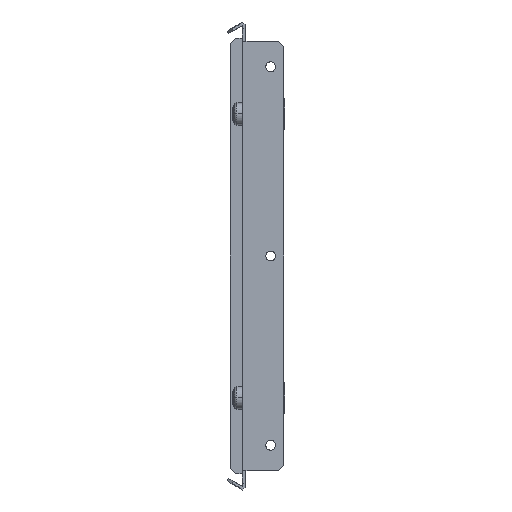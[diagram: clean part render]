
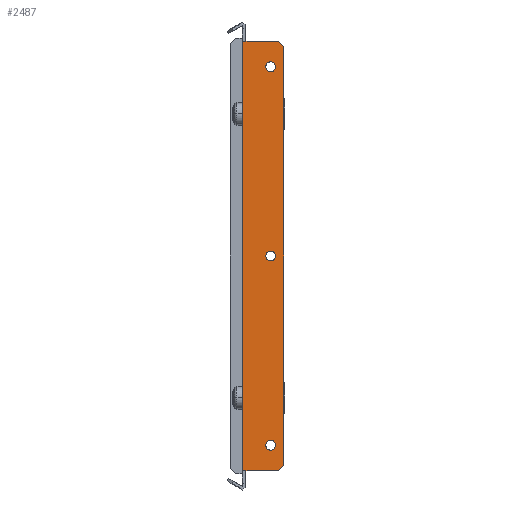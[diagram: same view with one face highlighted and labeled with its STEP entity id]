
A CAD part, front view. The second image highlights one B-rep face of the part: STEP entity #2487.
In plain terms, the highlighted planar face has unit normal (0, -1, 0).
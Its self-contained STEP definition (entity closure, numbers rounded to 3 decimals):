
#63 = AXIS2_PLACEMENT_3D ( 'NONE', #7304, #8786, #4920 ) ;
#127 = ORIENTED_EDGE ( 'NONE', *, *, #3748, .F. ) ;
#165 = CIRCLE ( 'NONE', #4715, 2.6 ) ;
#232 = CARTESIAN_POINT ( 'NONE',  ( 0., -2.5, 113.5 ) ) ;
#239 = CARTESIAN_POINT ( 'NONE',  ( 9.4, -2.5, 100. ) ) ;
#259 = EDGE_LOOP ( 'NONE', ( #1169, #1421, #3706, #3395, #6080, #3270, #8402, #5838 ) ) ;
#391 = CARTESIAN_POINT ( 'NONE',  ( 12., -2.5, 0. ) ) ;
#472 = VECTOR ( 'NONE', #1034, 1000. ) ;
#547 = VECTOR ( 'NONE', #6517, 1000. ) ;
#613 = CIRCLE ( 'NONE', #6118, 2.6 ) ;
#844 = ORIENTED_EDGE ( 'NONE', *, *, #4361, .F. ) ;
#881 = EDGE_CURVE ( 'NONE', #3249, #8608, #3087, .T. ) ;
#984 = LINE ( 'NONE', #8403, #5741 ) ;
#1034 = DIRECTION ( 'NONE',  ( -0.707, 0., 0.707 ) ) ;
#1065 = VERTEX_POINT ( 'NONE', #4264 ) ;
#1127 = CARTESIAN_POINT ( 'NONE',  ( -3., -2.5, 0. ) ) ;
#1169 = ORIENTED_EDGE ( 'NONE', *, *, #7518, .T. ) ;
#1185 = DIRECTION ( 'NONE',  ( 1., 0., 0. ) ) ;
#1421 = ORIENTED_EDGE ( 'NONE', *, *, #4841, .T. ) ;
#1463 = VERTEX_POINT ( 'NONE', #4795 ) ;
#1485 = VERTEX_POINT ( 'NONE', #5570 ) ;
#1505 = VECTOR ( 'NONE', #8431, 1000. ) ;
#1542 = DIRECTION ( 'NONE',  ( -1., 0., 0. ) ) ;
#1548 = ORIENTED_EDGE ( 'NONE', *, *, #5553, .F. ) ;
#1742 = DIRECTION ( 'NONE',  ( 0., -1., 0. ) ) ;
#1746 = VERTEX_POINT ( 'NONE', #2857 ) ;
#1891 = EDGE_LOOP ( 'NONE', ( #7470, #1548 ) ) ;
#1956 = LINE ( 'NONE', #9412, #547 ) ;
#1977 = EDGE_CURVE ( 'NONE', #8608, #1989, #8489, .T. ) ;
#1989 = VERTEX_POINT ( 'NONE', #7887 ) ;
#2066 = LINE ( 'NONE', #1127, #4926 ) ;
#2147 = VECTOR ( 'NONE', #5594, 1000. ) ;
#2226 = DIRECTION ( 'NONE',  ( 0., -1., 0. ) ) ;
#2279 = VERTEX_POINT ( 'NONE', #5222 ) ;
#2384 = CARTESIAN_POINT ( 'NONE',  ( -3., -2.5, -113.5 ) ) ;
#2464 = VERTEX_POINT ( 'NONE', #7093 ) ;
#2487 = ADVANCED_FACE ( 'NONE', ( #6180, #3365, #9213, #6360 ), #9351, .F. ) ;
#2552 = CARTESIAN_POINT ( 'NONE',  ( 16., -2.5, 113.5 ) ) ;
#2723 = CIRCLE ( 'NONE', #63, 2.6 ) ;
#2737 = VERTEX_POINT ( 'NONE', #9538 ) ;
#2739 = CIRCLE ( 'NONE', #6191, 2.6 ) ;
#2750 = CARTESIAN_POINT ( 'NONE',  ( 9.4, -2.5, -100. ) ) ;
#2762 = LINE ( 'NONE', #6536, #2813 ) ;
#2813 = VECTOR ( 'NONE', #1185, 1000. ) ;
#2852 = EDGE_CURVE ( 'NONE', #2279, #2870, #5241, .T. ) ;
#2857 = CARTESIAN_POINT ( 'NONE',  ( 14.6, -2.5, -100. ) ) ;
#2870 = VERTEX_POINT ( 'NONE', #2384 ) ;
#2973 = EDGE_CURVE ( 'NONE', #2464, #3249, #6377, .T. ) ;
#3087 = LINE ( 'NONE', #232, #1505 ) ;
#3173 = DIRECTION ( 'NONE',  ( -1., 0., 0. ) ) ;
#3245 = DIRECTION ( 'NONE',  ( 0., -1., 0. ) ) ;
#3249 = VERTEX_POINT ( 'NONE', #6725 ) ;
#3270 = ORIENTED_EDGE ( 'NONE', *, *, #1977, .T. ) ;
#3365 = FACE_BOUND ( 'NONE', #7315, .T. ) ;
#3389 = DIRECTION ( 'NONE',  ( -1., 0., 0. ) ) ;
#3395 = ORIENTED_EDGE ( 'NONE', *, *, #2973, .T. ) ;
#3449 = DIRECTION ( 'NONE',  ( 1., 0., 0. ) ) ;
#3706 = ORIENTED_EDGE ( 'NONE', *, *, #9471, .T. ) ;
#3748 = EDGE_CURVE ( 'NONE', #8973, #1746, #4090, .T. ) ;
#3763 = CARTESIAN_POINT ( 'NONE',  ( 12., -2.5, -100. ) ) ;
#3779 = AXIS2_PLACEMENT_3D ( 'NONE', #3763, #6758, #3173 ) ;
#4090 = CIRCLE ( 'NONE', #3779, 2.6 ) ;
#4099 = VERTEX_POINT ( 'NONE', #8412 ) ;
#4133 = DIRECTION ( 'NONE',  ( 0., 0., -1. ) ) ;
#4264 = CARTESIAN_POINT ( 'NONE',  ( 16., -2.5, -113.5 ) ) ;
#4359 = EDGE_CURVE ( 'NONE', #1746, #8973, #613, .T. ) ;
#4361 = EDGE_CURVE ( 'NONE', #2737, #1463, #165, .T. ) ;
#4715 = AXIS2_PLACEMENT_3D ( 'NONE', #391, #3245, #5654 ) ;
#4795 = CARTESIAN_POINT ( 'NONE',  ( 14.6, -2.5, 0. ) ) ;
#4841 = EDGE_CURVE ( 'NONE', #1065, #4099, #1956, .T. ) ;
#4854 = DIRECTION ( 'NONE',  ( 1., 0., 0. ) ) ;
#4920 = DIRECTION ( 'NONE',  ( -1., 0., 0. ) ) ;
#4926 = VECTOR ( 'NONE', #4133, 1000. ) ;
#5087 = CARTESIAN_POINT ( 'NONE',  ( 12., -2.5, 100. ) ) ;
#5222 = CARTESIAN_POINT ( 'NONE',  ( -0.5, -2.5, -113.5 ) ) ;
#5241 = LINE ( 'NONE', #8999, #7359 ) ;
#5284 = CARTESIAN_POINT ( 'NONE',  ( -0.5, -2.5, 113.5 ) ) ;
#5309 = EDGE_LOOP ( 'NONE', ( #844, #8427 ) ) ;
#5507 = DIRECTION ( 'NONE',  ( 0., 0., 1. ) ) ;
#5546 = CARTESIAN_POINT ( 'NONE',  ( -0.5, -2.5, 113.5 ) ) ;
#5553 = EDGE_CURVE ( 'NONE', #8115, #1485, #2739, .T. ) ;
#5570 = CARTESIAN_POINT ( 'NONE',  ( 14.6, -2.5, 100. ) ) ;
#5594 = DIRECTION ( 'NONE',  ( -1., 0., 0. ) ) ;
#5654 = DIRECTION ( 'NONE',  ( -1., 0., 0. ) ) ;
#5741 = VECTOR ( 'NONE', #5507, 1000. ) ;
#5838 = ORIENTED_EDGE ( 'NONE', *, *, #2852, .F. ) ;
#5975 = EDGE_CURVE ( 'NONE', #1463, #2737, #2723, .T. ) ;
#6039 = EDGE_CURVE ( 'NONE', #1989, #2870, #2066, .T. ) ;
#6080 = ORIENTED_EDGE ( 'NONE', *, *, #881, .T. ) ;
#6118 = AXIS2_PLACEMENT_3D ( 'NONE', #6979, #1742, #3389 ) ;
#6180 = FACE_BOUND ( 'NONE', #5309, .T. ) ;
#6191 = AXIS2_PLACEMENT_3D ( 'NONE', #5087, #7961, #3449 ) ;
#6360 = FACE_OUTER_BOUND ( 'NONE', #259, .T. ) ;
#6377 = LINE ( 'NONE', #2552, #472 ) ;
#6412 = AXIS2_PLACEMENT_3D ( 'NONE', #9303, #8573, #4854 ) ;
#6517 = DIRECTION ( 'NONE',  ( 0.707, 0., 0.707 ) ) ;
#6536 = CARTESIAN_POINT ( 'NONE',  ( 0., -2.5, -113.5 ) ) ;
#6725 = CARTESIAN_POINT ( 'NONE',  ( 16., -2.5, 113.5 ) ) ;
#6758 = DIRECTION ( 'NONE',  ( 0., -1., 0. ) ) ;
#6979 = CARTESIAN_POINT ( 'NONE',  ( 12., -2.5, -100. ) ) ;
#7093 = CARTESIAN_POINT ( 'NONE',  ( 19., -2.5, 110.5 ) ) ;
#7142 = CIRCLE ( 'NONE', #8414, 2.6 ) ;
#7304 = CARTESIAN_POINT ( 'NONE',  ( 12., -2.5, 0. ) ) ;
#7315 = EDGE_LOOP ( 'NONE', ( #9258, #127 ) ) ;
#7359 = VECTOR ( 'NONE', #1542, 1000. ) ;
#7470 = ORIENTED_EDGE ( 'NONE', *, *, #9438, .F. ) ;
#7518 = EDGE_CURVE ( 'NONE', #2279, #1065, #2762, .T. ) ;
#7704 = DIRECTION ( 'NONE',  ( 1., 0., 0. ) ) ;
#7887 = CARTESIAN_POINT ( 'NONE',  ( -3., -2.5, 113.5 ) ) ;
#7961 = DIRECTION ( 'NONE',  ( 0., -1., 0. ) ) ;
#8115 = VERTEX_POINT ( 'NONE', #239 ) ;
#8402 = ORIENTED_EDGE ( 'NONE', *, *, #6039, .T. ) ;
#8403 = CARTESIAN_POINT ( 'NONE',  ( 19., -2.5, 0. ) ) ;
#8412 = CARTESIAN_POINT ( 'NONE',  ( 19., -2.5, -110.5 ) ) ;
#8414 = AXIS2_PLACEMENT_3D ( 'NONE', #8946, #2226, #7704 ) ;
#8427 = ORIENTED_EDGE ( 'NONE', *, *, #5975, .F. ) ;
#8431 = DIRECTION ( 'NONE',  ( -1., 0., 0. ) ) ;
#8489 = LINE ( 'NONE', #5546, #2147 ) ;
#8573 = DIRECTION ( 'NONE',  ( 0., 1., 0. ) ) ;
#8608 = VERTEX_POINT ( 'NONE', #5284 ) ;
#8786 = DIRECTION ( 'NONE',  ( 0., -1., 0. ) ) ;
#8946 = CARTESIAN_POINT ( 'NONE',  ( 12., -2.5, 100. ) ) ;
#8973 = VERTEX_POINT ( 'NONE', #2750 ) ;
#8999 = CARTESIAN_POINT ( 'NONE',  ( 0., -2.5, -113.5 ) ) ;
#9213 = FACE_BOUND ( 'NONE', #1891, .T. ) ;
#9258 = ORIENTED_EDGE ( 'NONE', *, *, #4359, .F. ) ;
#9303 = CARTESIAN_POINT ( 'NONE',  ( 0., -2.5, 0. ) ) ;
#9351 = PLANE ( 'NONE',  #6412 ) ;
#9412 = CARTESIAN_POINT ( 'NONE',  ( 19., -2.5, -110.5 ) ) ;
#9438 = EDGE_CURVE ( 'NONE', #1485, #8115, #7142, .T. ) ;
#9471 = EDGE_CURVE ( 'NONE', #4099, #2464, #984, .T. ) ;
#9538 = CARTESIAN_POINT ( 'NONE',  ( 9.4, -2.5, 0. ) ) ;
